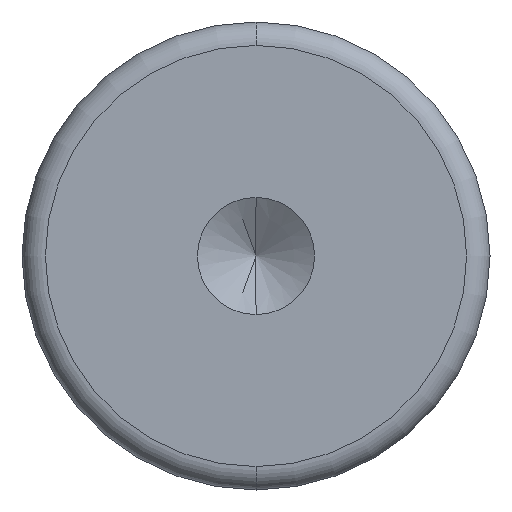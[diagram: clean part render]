
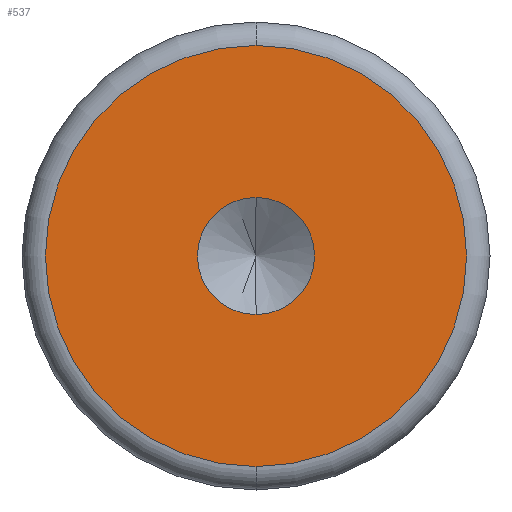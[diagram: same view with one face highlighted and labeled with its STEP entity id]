
A CAD part, front view. The second image highlights one B-rep face of the part: STEP entity #537.
In plain terms, the highlighted planar face has unit normal (0, -1, 0).
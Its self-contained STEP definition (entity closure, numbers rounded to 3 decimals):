
#1 = AXIS2_PLACEMENT_3D ( 'NONE', #161, #36, #199 ) ;
#15 = CIRCLE ( 'NONE', #1, 9. ) ;
#20 = PLANE ( 'NONE',  #332 ) ;
#36 = DIRECTION ( 'NONE',  ( 0., -1., 0. ) ) ;
#40 = CARTESIAN_POINT ( 'NONE',  ( 0., 0., 9. ) ) ;
#44 = CIRCLE ( 'NONE', #192, 2.5 ) ;
#51 = CARTESIAN_POINT ( 'NONE',  ( 0., 0., 0. ) ) ;
#54 = ORIENTED_EDGE ( 'NONE', *, *, #215, .F. ) ;
#55 = DIRECTION ( 'NONE',  ( 0., 0., 1. ) ) ;
#66 = ORIENTED_EDGE ( 'NONE', *, *, #86, .T. ) ;
#67 = DIRECTION ( 'NONE',  ( 0., 0., -1. ) ) ;
#78 = VERTEX_POINT ( 'NONE', #40 ) ;
#79 = EDGE_CURVE ( 'NONE', #135, #342, #44, .T. ) ;
#81 = CIRCLE ( 'NONE', #171, 2.5 ) ;
#86 = EDGE_CURVE ( 'NONE', #227, #78, #15, .T. ) ;
#135 = VERTEX_POINT ( 'NONE', #401 ) ;
#138 = ORIENTED_EDGE ( 'NONE', *, *, #411, .T. ) ;
#147 = CARTESIAN_POINT ( 'NONE',  ( 0., 0., 0. ) ) ;
#161 = CARTESIAN_POINT ( 'NONE',  ( 0., 0., 0. ) ) ;
#171 = AXIS2_PLACEMENT_3D ( 'NONE', #147, #386, #355 ) ;
#174 = DIRECTION ( 'NONE',  ( 0., 0., 1. ) ) ;
#192 = AXIS2_PLACEMENT_3D ( 'NONE', #410, #405, #67 ) ;
#199 = DIRECTION ( 'NONE',  ( 0., 0., 1. ) ) ;
#215 = EDGE_CURVE ( 'NONE', #342, #135, #81, .T. ) ;
#217 = DIRECTION ( 'NONE',  ( 0., -1., 0. ) ) ;
#224 = FACE_OUTER_BOUND ( 'NONE', #233, .T. ) ;
#227 = VERTEX_POINT ( 'NONE', #470 ) ;
#228 = CARTESIAN_POINT ( 'NONE',  ( 0., 0., 0. ) ) ;
#233 = EDGE_LOOP ( 'NONE', ( #138, #66 ) ) ;
#313 = FACE_BOUND ( 'NONE', #525, .T. ) ;
#332 = AXIS2_PLACEMENT_3D ( 'NONE', #228, #348, #55 ) ;
#342 = VERTEX_POINT ( 'NONE', #491 ) ;
#348 = DIRECTION ( 'NONE',  ( 0., 1., 0. ) ) ;
#355 = DIRECTION ( 'NONE',  ( 0., 0., -1. ) ) ;
#372 = AXIS2_PLACEMENT_3D ( 'NONE', #51, #217, #174 ) ;
#386 = DIRECTION ( 'NONE',  ( 0., -1., 0. ) ) ;
#387 = ORIENTED_EDGE ( 'NONE', *, *, #79, .F. ) ;
#401 = CARTESIAN_POINT ( 'NONE',  ( 0., 0., 2.5 ) ) ;
#405 = DIRECTION ( 'NONE',  ( 0., -1., 0. ) ) ;
#410 = CARTESIAN_POINT ( 'NONE',  ( 0., 0., 0. ) ) ;
#411 = EDGE_CURVE ( 'NONE', #78, #227, #493, .T. ) ;
#470 = CARTESIAN_POINT ( 'NONE',  ( 0., 0., -9. ) ) ;
#491 = CARTESIAN_POINT ( 'NONE',  ( 0., 0., -2.5 ) ) ;
#493 = CIRCLE ( 'NONE', #372, 9. ) ;
#525 = EDGE_LOOP ( 'NONE', ( #54, #387 ) ) ;
#537 = ADVANCED_FACE ( 'NONE', ( #224, #313 ), #20, .F. ) ;
